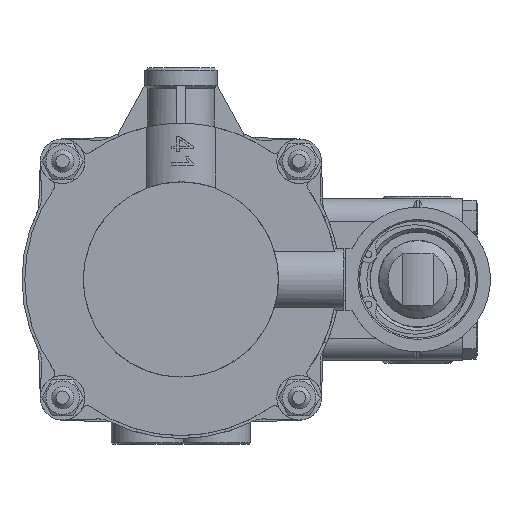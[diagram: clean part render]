
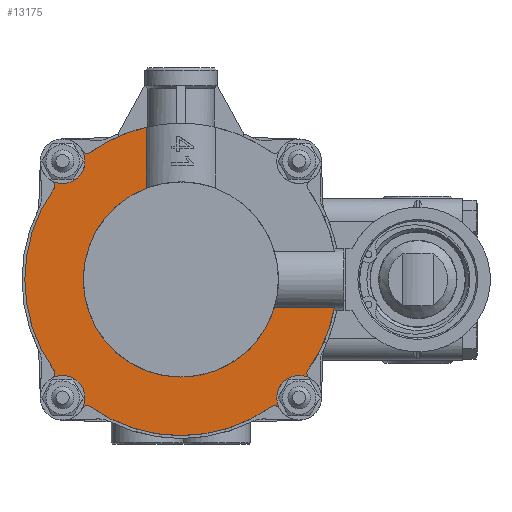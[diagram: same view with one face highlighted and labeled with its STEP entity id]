
A CAD part, top view. The second image highlights one B-rep face of the part: STEP entity #13175.
In plain terms, the highlighted planar face has unit normal (0, 0, 1).
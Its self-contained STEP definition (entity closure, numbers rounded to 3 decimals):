
#2733=FACE_OUTER_BOUND('',#17394,.T.);
#4604=LINE('',#66858,#7082);
#4702=LINE('',#67409,#7180);
#7082=VECTOR('',#49089,1.);
#7180=VECTOR('',#49593,1.);
#11714=PLANE('',#43351);
#13175=ADVANCED_FACE('',(#2733),#11714,.T.);
#17394=EDGE_LOOP('',(#23222,#23223,#23224,#23225,#23226,#23227,#23228,#23229,
#23230,#23231,#23232,#23233,#23234,#23235,#23236,#23237,#23238,#23239));
#23222=ORIENTED_EDGE('',*,*,#36643,.T.);
#23223=ORIENTED_EDGE('',*,*,#36623,.T.);
#23224=ORIENTED_EDGE('',*,*,#36516,.T.);
#23225=ORIENTED_EDGE('',*,*,#36543,.T.);
#23226=ORIENTED_EDGE('',*,*,#36521,.F.);
#23227=ORIENTED_EDGE('',*,*,#36513,.T.);
#23228=ORIENTED_EDGE('',*,*,#36629,.T.);
#23229=ORIENTED_EDGE('',*,*,#36507,.T.);
#23230=ORIENTED_EDGE('',*,*,#36580,.T.);
#23231=ORIENTED_EDGE('',*,*,#36501,.T.);
#23232=ORIENTED_EDGE('',*,*,#36616,.T.);
#23233=ORIENTED_EDGE('',*,*,#36499,.T.);
#23234=ORIENTED_EDGE('',*,*,#36529,.F.);
#23235=ORIENTED_EDGE('',*,*,#36569,.T.);
#23236=ORIENTED_EDGE('',*,*,#36492,.T.);
#23237=ORIENTED_EDGE('',*,*,#36617,.T.);
#23238=ORIENTED_EDGE('',*,*,#36409,.T.);
#23239=ORIENTED_EDGE('',*,*,#36639,.F.);
#31989=VERTEX_POINT('',#66857);
#31990=VERTEX_POINT('',#66859);
#32051=VERTEX_POINT('',#67056);
#32052=VERTEX_POINT('',#67057);
#32058=VERTEX_POINT('',#67070);
#32059=VERTEX_POINT('',#67072);
#32060=VERTEX_POINT('',#67076);
#32061=VERTEX_POINT('',#67077);
#32066=VERTEX_POINT('',#67088);
#32067=VERTEX_POINT('',#67090);
#32069=VERTEX_POINT('',#67095);
#32072=VERTEX_POINT('',#67101);
#32075=VERTEX_POINT('',#67108);
#32076=VERTEX_POINT('',#67110);
#32077=VERTEX_POINT('',#67114);
#32080=VERTEX_POINT('',#67132);
#32118=VERTEX_POINT('',#67334);
#32120=VERTEX_POINT('',#67393);
#36409=EDGE_CURVE('',#31990,#31989,#4604,.T.);
#36492=EDGE_CURVE('',#32051,#32052,#40684,.T.);
#36499=EDGE_CURVE('',#32059,#32058,#40688,.T.);
#36501=EDGE_CURVE('',#32060,#32061,#40689,.T.);
#36507=EDGE_CURVE('',#32067,#32066,#40692,.T.);
#36513=EDGE_CURVE('',#32069,#32072,#40695,.T.);
#36516=EDGE_CURVE('',#32076,#32075,#40697,.T.);
#36521=EDGE_CURVE('',#32069,#32077,#40701,.T.);
#36529=EDGE_CURVE('',#32080,#32058,#40709,.T.);
#36543=EDGE_CURVE('',#32075,#32077,#40713,.T.);
#36569=EDGE_CURVE('',#32080,#32051,#40724,.T.);
#36580=EDGE_CURVE('',#32066,#32060,#40727,.T.);
#36616=EDGE_CURVE('',#32061,#32059,#40754,.T.);
#36617=EDGE_CURVE('',#32052,#31990,#40755,.T.);
#36623=EDGE_CURVE('',#32118,#32076,#40761,.T.);
#36629=EDGE_CURVE('',#32072,#32067,#40764,.T.);
#36639=EDGE_CURVE('',#32120,#31989,#40772,.T.);
#36643=EDGE_CURVE('',#32120,#32118,#4702,.T.);
#40684=CIRCLE('',#43196,2.);
#40688=CIRCLE('',#43201,2.);
#40689=CIRCLE('',#43203,2.);
#40692=CIRCLE('',#43207,2.);
#40695=CIRCLE('',#43211,2.);
#40697=CIRCLE('',#43214,2.);
#40701=CIRCLE('',#43221,8.);
#40709=CIRCLE('',#43236,8.);
#40713=CIRCLE('',#43246,8.);
#40724=CIRCLE('',#43265,8.);
#40727=CIRCLE('',#43273,8.);
#40754=CIRCLE('',#43314,56.);
#40755=CIRCLE('',#43316,56.);
#40761=CIRCLE('',#43325,56.);
#40764=CIRCLE('',#43329,56.);
#40772=CIRCLE('',#43348,35.);
#43196=AXIS2_PLACEMENT_3D('',#67055,#49237,#49238);
#43201=AXIS2_PLACEMENT_3D('',#67071,#49250,#49251);
#43203=AXIS2_PLACEMENT_3D('',#67075,#49255,#49256);
#43207=AXIS2_PLACEMENT_3D('',#67089,#49266,#49267);
#43211=AXIS2_PLACEMENT_3D('',#67102,#49277,#49278);
#43214=AXIS2_PLACEMENT_3D('',#67109,#49284,#49285);
#43221=AXIS2_PLACEMENT_3D('',#67120,#49299,#49300);
#43236=AXIS2_PLACEMENT_3D('',#67138,#49329,#49330);
#43246=AXIS2_PLACEMENT_3D('',#67173,#49357,#49358);
#43265=AXIS2_PLACEMENT_3D('',#67225,#49408,#49409);
#43273=AXIS2_PLACEMENT_3D('',#67250,#49431,#49432);
#43314=AXIS2_PLACEMENT_3D('',#67322,#49519,#49520);
#43316=AXIS2_PLACEMENT_3D('',#67324,#49523,#49524);
#43325=AXIS2_PLACEMENT_3D('',#67333,#49541,#49542);
#43329=AXIS2_PLACEMENT_3D('',#67361,#49549,#49550);
#43348=AXIS2_PLACEMENT_3D('',#67392,#49587,#49588);
#43351=AXIS2_PLACEMENT_3D('',#67410,#49594,#49595);
#49089=DIRECTION('',(-1.,0.,0.));
#49237=DIRECTION('',(0.,0.,-1.));
#49238=DIRECTION('',(1.,0.,0.));
#49250=DIRECTION('',(0.,0.,-1.));
#49251=DIRECTION('',(1.,0.,0.));
#49255=DIRECTION('',(0.,0.,-1.));
#49256=DIRECTION('',(1.,0.,0.));
#49266=DIRECTION('',(0.,0.,-1.));
#49267=DIRECTION('',(1.,0.,0.));
#49277=DIRECTION('',(0.,0.,-1.));
#49278=DIRECTION('',(1.,0.,0.));
#49284=DIRECTION('',(0.,0.,-1.));
#49285=DIRECTION('',(1.,0.,0.));
#49299=DIRECTION('',(0.,0.,1.));
#49300=DIRECTION('',(0.,1.,0.));
#49329=DIRECTION('',(0.,0.,1.));
#49330=DIRECTION('',(0.,-1.,0.));
#49357=DIRECTION('',(0.,0.,1.));
#49358=DIRECTION('',(1.,0.,0.));
#49408=DIRECTION('',(0.,0.,1.));
#49409=DIRECTION('',(1.,0.,0.));
#49431=DIRECTION('',(0.,0.,-1.));
#49432=DIRECTION('',(-1.,0.,0.));
#49519=DIRECTION('',(0.,0.,1.));
#49520=DIRECTION('',(1.,0.,0.));
#49523=DIRECTION('',(0.,0.,1.));
#49524=DIRECTION('',(1.,0.,0.));
#49541=DIRECTION('',(0.,0.,1.));
#49542=DIRECTION('',(1.,0.,0.));
#49549=DIRECTION('',(0.,0.,1.));
#49550=DIRECTION('',(1.,0.,0.));
#49587=DIRECTION('',(0.,0.,1.));
#49588=DIRECTION('',(1.,0.,0.));
#49593=DIRECTION('',(0.,1.,0.));
#49594=DIRECTION('',(0.,0.,1.));
#49595=DIRECTION('',(1.,0.,0.));
#66857=CARTESIAN_POINT('',(33.557,-9.945,93.8));
#66858=CARTESIAN_POINT('',(-747.,-9.945,93.8));
#66859=CARTESIAN_POINT('',(55.11,-9.945,93.8));
#67055=CARTESIAN_POINT('',(47.235,-33.658,93.8));
#67056=CARTESIAN_POINT('',(46.273,-35.412,93.8));
#67057=CARTESIAN_POINT('',(45.606,-32.498,93.8));
#67070=CARTESIAN_POINT('',(35.367,-46.196,93.8));
#67071=CARTESIAN_POINT('',(33.658,-47.235,93.8));
#67072=CARTESIAN_POINT('',(32.498,-45.606,93.8));
#67075=CARTESIAN_POINT('',(-33.658,-47.235,93.8));
#67076=CARTESIAN_POINT('',(-35.412,-46.273,93.8));
#67077=CARTESIAN_POINT('',(-32.498,-45.606,93.8));
#67088=CARTESIAN_POINT('',(-46.273,-35.412,93.8));
#67089=CARTESIAN_POINT('',(-47.235,-33.658,93.8));
#67090=CARTESIAN_POINT('',(-45.606,-32.498,93.8));
#67095=CARTESIAN_POINT('',(-46.196,35.367,93.8));
#67101=CARTESIAN_POINT('',(-45.606,32.498,93.8));
#67102=CARTESIAN_POINT('',(-47.235,33.658,93.8));
#67108=CARTESIAN_POINT('',(-35.412,46.273,93.8));
#67109=CARTESIAN_POINT('',(-33.658,47.235,93.8));
#67110=CARTESIAN_POINT('',(-32.498,45.606,93.8));
#67114=CARTESIAN_POINT('',(-50.426,42.425,93.8));
#67120=CARTESIAN_POINT('',(-42.426,42.424,93.8));
#67132=CARTESIAN_POINT('',(42.425,-50.426,93.8));
#67138=CARTESIAN_POINT('',(42.424,-42.426,93.8));
#67173=CARTESIAN_POINT('',(-42.426,42.426,93.8));
#67225=CARTESIAN_POINT('',(42.426,-42.426,93.8));
#67250=CARTESIAN_POINT('',(-42.426,-42.426,93.8));
#67322=CARTESIAN_POINT('',(0.,0.,93.8));
#67324=CARTESIAN_POINT('',(0.,0.,93.8));
#67333=CARTESIAN_POINT('',(0.,0.,93.8));
#67334=CARTESIAN_POINT('',(-12.359,54.619,93.8));
#67361=CARTESIAN_POINT('',(0.,0.,93.8));
#67392=CARTESIAN_POINT('',(0.,0.,93.8));
#67393=CARTESIAN_POINT('',(-12.359,32.745,93.8));
#67409=CARTESIAN_POINT('',(-12.359,-9.5,93.8));
#67410=CARTESIAN_POINT('',(0.,35.,93.8));
